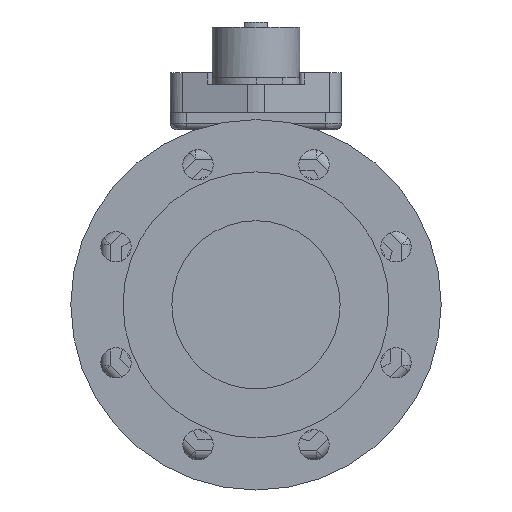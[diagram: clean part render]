
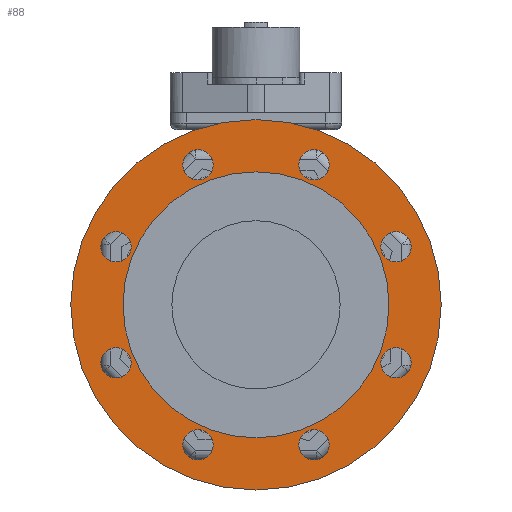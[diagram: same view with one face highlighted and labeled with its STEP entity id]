
A CAD part, left-side view. The second image highlights one B-rep face of the part: STEP entity #88.
In plain terms, the highlighted planar face has unit normal (-1, 0, 0).
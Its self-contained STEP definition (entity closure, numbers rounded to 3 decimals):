
#88=ADVANCED_FACE('',(#514,#515,#516,#517,#518,#519,#520,#521,#522,#523),#513,.T.);
#513=PLANE('',#3407);
#514=FACE_OUTER_BOUND('',#3408,.T.);
#515=FACE_BOUND('',#3409,.T.);
#516=FACE_BOUND('',#3410,.T.);
#517=FACE_BOUND('',#3411,.T.);
#518=FACE_BOUND('',#3412,.T.);
#519=FACE_BOUND('',#3413,.T.);
#520=FACE_BOUND('',#3414,.T.);
#521=FACE_BOUND('',#3415,.T.);
#522=FACE_BOUND('',#3416,.T.);
#523=FACE_BOUND('',#3417,.T.);
#3404=CARTESIAN_POINT('',(-167.7,-200.526,-230.));
#3405=DIRECTION('',(-1.,0.,0.));
#3406=DIRECTION('',(0.,0.,1.));
#3407=AXIS2_PLACEMENT_3D('',#3404,#3405,#3406);
#3408=EDGE_LOOP('',(#5120,#5121));
#3409=EDGE_LOOP('',(#5122,#5123));
#3410=EDGE_LOOP('',(#5124,#5125));
#3411=EDGE_LOOP('',(#5126,#5127));
#3412=EDGE_LOOP('',(#5128,#5129));
#3413=EDGE_LOOP('',(#5130,#5131));
#3414=EDGE_LOOP('',(#5132,#5133));
#3415=EDGE_LOOP('',(#5134,#5135));
#3416=EDGE_LOOP('',(#5136,#5137));
#3417=EDGE_LOOP('',(#5138,#5139));
#5120=ORIENTED_EDGE('',*,*,#6575,.T.);
#5121=ORIENTED_EDGE('',*,*,#6576,.T.);
#5122=ORIENTED_EDGE('',*,*,#6577,.F.);
#5123=ORIENTED_EDGE('',*,*,#6578,.F.);
#5124=ORIENTED_EDGE('',*,*,#6579,.F.);
#5125=ORIENTED_EDGE('',*,*,#6580,.F.);
#5126=ORIENTED_EDGE('',*,*,#6581,.F.);
#5127=ORIENTED_EDGE('',*,*,#6582,.F.);
#5128=ORIENTED_EDGE('',*,*,#6583,.F.);
#5129=ORIENTED_EDGE('',*,*,#6584,.F.);
#5130=ORIENTED_EDGE('',*,*,#6585,.F.);
#5131=ORIENTED_EDGE('',*,*,#6586,.F.);
#5132=ORIENTED_EDGE('',*,*,#6587,.F.);
#5133=ORIENTED_EDGE('',*,*,#6588,.F.);
#5134=ORIENTED_EDGE('',*,*,#6589,.F.);
#5135=ORIENTED_EDGE('',*,*,#6590,.F.);
#5136=ORIENTED_EDGE('',*,*,#6591,.F.);
#5137=ORIENTED_EDGE('',*,*,#6592,.F.);
#5138=ORIENTED_EDGE('',*,*,#6593,.F.);
#5139=ORIENTED_EDGE('',*,*,#6594,.F.);
#6575=EDGE_CURVE('',#8117,#8118,#8119,.T.);
#6576=EDGE_CURVE('',#8118,#8117,#8125,.T.);
#6577=EDGE_CURVE('',#8131,#8132,#8133,.T.);
#6578=EDGE_CURVE('',#8132,#8131,#8139,.T.);
#6579=EDGE_CURVE('',#8145,#8146,#8147,.T.);
#6580=EDGE_CURVE('',#8146,#8145,#8153,.T.);
#6581=EDGE_CURVE('',#8159,#8160,#8161,.T.);
#6582=EDGE_CURVE('',#8160,#8159,#8167,.T.);
#6583=EDGE_CURVE('',#8173,#8174,#8175,.T.);
#6584=EDGE_CURVE('',#8174,#8173,#8181,.T.);
#6585=EDGE_CURVE('',#8187,#8188,#8189,.T.);
#6586=EDGE_CURVE('',#8188,#8187,#8195,.T.);
#6587=EDGE_CURVE('',#8201,#8202,#8203,.T.);
#6588=EDGE_CURVE('',#8202,#8201,#8209,.T.);
#6589=EDGE_CURVE('',#8215,#8216,#8217,.T.);
#6590=EDGE_CURVE('',#8216,#8215,#8223,.T.);
#6591=EDGE_CURVE('',#8229,#8230,#8231,.T.);
#6592=EDGE_CURVE('',#8230,#8229,#8237,.T.);
#6593=EDGE_CURVE('',#8243,#8244,#8245,.T.);
#6594=EDGE_CURVE('',#8244,#8243,#8251,.T.);
#8117=VERTEX_POINT('',#12651);
#8118=VERTEX_POINT('',#12652);
#8119=CIRCLE('',#12656,110.);
#8125=CIRCLE('',#12660,110.);
#8131=VERTEX_POINT('',#12661);
#8132=VERTEX_POINT('',#12662);
#8133=CIRCLE('',#12666,9.);
#8139=CIRCLE('',#12670,9.);
#8145=VERTEX_POINT('',#12671);
#8146=VERTEX_POINT('',#12672);
#8147=CIRCLE('',#12676,9.);
#8153=CIRCLE('',#12680,9.);
#8159=VERTEX_POINT('',#12681);
#8160=VERTEX_POINT('',#12682);
#8161=CIRCLE('',#12686,9.);
#8167=CIRCLE('',#12690,9.);
#8173=VERTEX_POINT('',#12691);
#8174=VERTEX_POINT('',#12692);
#8175=CIRCLE('',#12696,9.);
#8181=CIRCLE('',#12700,9.);
#8187=VERTEX_POINT('',#12701);
#8188=VERTEX_POINT('',#12702);
#8189=CIRCLE('',#12706,9.);
#8195=CIRCLE('',#12710,9.);
#8201=VERTEX_POINT('',#12711);
#8202=VERTEX_POINT('',#12712);
#8203=CIRCLE('',#12716,9.);
#8209=CIRCLE('',#12720,9.);
#8215=VERTEX_POINT('',#12721);
#8216=VERTEX_POINT('',#12722);
#8217=CIRCLE('',#12726,9.);
#8223=CIRCLE('',#12730,9.);
#8229=VERTEX_POINT('',#12731);
#8230=VERTEX_POINT('',#12732);
#8231=CIRCLE('',#12736,9.);
#8237=CIRCLE('',#12740,9.);
#8243=VERTEX_POINT('',#12741);
#8244=VERTEX_POINT('',#12742);
#8245=CIRCLE('',#12746,79.);
#8251=CIRCLE('',#12750,79.);
#12651=CARTESIAN_POINT('',(-167.7,0.,110.));
#12652=CARTESIAN_POINT('',(-167.7,0.,-110.));
#12653=CARTESIAN_POINT('',(-167.7,0.,0.));
#12654=DIRECTION('',(-1.,0.,0.));
#12655=DIRECTION('',(0.,0.,1.));
#12656=AXIS2_PLACEMENT_3D('',#12653,#12654,#12655);
#12657=CARTESIAN_POINT('',(-167.7,0.,0.));
#12658=DIRECTION('',(-1.,0.,0.));
#12659=DIRECTION('',(0.,0.,1.));
#12660=AXIS2_PLACEMENT_3D('',#12657,#12658,#12659);
#12661=CARTESIAN_POINT('',(-167.7,83.149,25.442));
#12662=CARTESIAN_POINT('',(-167.7,83.149,43.442));
#12663=CARTESIAN_POINT('',(-167.7,83.149,34.442));
#12664=DIRECTION('',(-1.,0.,0.));
#12665=DIRECTION('',(0.,0.,1.));
#12666=AXIS2_PLACEMENT_3D('',#12663,#12664,#12665);
#12667=CARTESIAN_POINT('',(-167.7,83.149,34.442));
#12668=DIRECTION('',(-1.,0.,0.));
#12669=DIRECTION('',(0.,0.,1.));
#12670=AXIS2_PLACEMENT_3D('',#12667,#12668,#12669);
#12671=CARTESIAN_POINT('',(-167.7,83.149,-43.442));
#12672=CARTESIAN_POINT('',(-167.7,83.149,-25.442));
#12673=CARTESIAN_POINT('',(-167.7,83.149,-34.442));
#12674=DIRECTION('',(-1.,0.,0.));
#12675=DIRECTION('',(0.,0.,1.));
#12676=AXIS2_PLACEMENT_3D('',#12673,#12674,#12675);
#12677=CARTESIAN_POINT('',(-167.7,83.149,-34.442));
#12678=DIRECTION('',(-1.,0.,0.));
#12679=DIRECTION('',(0.,0.,1.));
#12680=AXIS2_PLACEMENT_3D('',#12677,#12678,#12679);
#12681=CARTESIAN_POINT('',(-167.7,34.442,-92.149));
#12682=CARTESIAN_POINT('',(-167.7,34.442,-74.149));
#12683=CARTESIAN_POINT('',(-167.7,34.442,-83.149));
#12684=DIRECTION('',(-1.,0.,0.));
#12685=DIRECTION('',(0.,0.,1.));
#12686=AXIS2_PLACEMENT_3D('',#12683,#12684,#12685);
#12687=CARTESIAN_POINT('',(-167.7,34.442,-83.149));
#12688=DIRECTION('',(-1.,0.,0.));
#12689=DIRECTION('',(0.,0.,1.));
#12690=AXIS2_PLACEMENT_3D('',#12687,#12688,#12689);
#12691=CARTESIAN_POINT('',(-167.7,-34.442,-92.149));
#12692=CARTESIAN_POINT('',(-167.7,-34.442,-74.149));
#12693=CARTESIAN_POINT('',(-167.7,-34.442,-83.149));
#12694=DIRECTION('',(-1.,0.,0.));
#12695=DIRECTION('',(0.,0.,1.));
#12696=AXIS2_PLACEMENT_3D('',#12693,#12694,#12695);
#12697=CARTESIAN_POINT('',(-167.7,-34.442,-83.149));
#12698=DIRECTION('',(-1.,0.,0.));
#12699=DIRECTION('',(0.,0.,1.));
#12700=AXIS2_PLACEMENT_3D('',#12697,#12698,#12699);
#12701=CARTESIAN_POINT('',(-167.7,-83.149,-43.442));
#12702=CARTESIAN_POINT('',(-167.7,-83.149,-25.442));
#12703=CARTESIAN_POINT('',(-167.7,-83.149,-34.442));
#12704=DIRECTION('',(-1.,0.,0.));
#12705=DIRECTION('',(0.,0.,1.));
#12706=AXIS2_PLACEMENT_3D('',#12703,#12704,#12705);
#12707=CARTESIAN_POINT('',(-167.7,-83.149,-34.442));
#12708=DIRECTION('',(-1.,0.,0.));
#12709=DIRECTION('',(0.,0.,1.));
#12710=AXIS2_PLACEMENT_3D('',#12707,#12708,#12709);
#12711=CARTESIAN_POINT('',(-167.7,-83.149,25.442));
#12712=CARTESIAN_POINT('',(-167.7,-83.149,43.442));
#12713=CARTESIAN_POINT('',(-167.7,-83.149,34.442));
#12714=DIRECTION('',(-1.,0.,0.));
#12715=DIRECTION('',(0.,0.,1.));
#12716=AXIS2_PLACEMENT_3D('',#12713,#12714,#12715);
#12717=CARTESIAN_POINT('',(-167.7,-83.149,34.442));
#12718=DIRECTION('',(-1.,0.,0.));
#12719=DIRECTION('',(0.,0.,1.));
#12720=AXIS2_PLACEMENT_3D('',#12717,#12718,#12719);
#12721=CARTESIAN_POINT('',(-167.7,-34.442,74.149));
#12722=CARTESIAN_POINT('',(-167.7,-34.442,92.149));
#12723=CARTESIAN_POINT('',(-167.7,-34.442,83.149));
#12724=DIRECTION('',(-1.,0.,0.));
#12725=DIRECTION('',(0.,0.,1.));
#12726=AXIS2_PLACEMENT_3D('',#12723,#12724,#12725);
#12727=CARTESIAN_POINT('',(-167.7,-34.442,83.149));
#12728=DIRECTION('',(-1.,0.,0.));
#12729=DIRECTION('',(0.,0.,1.));
#12730=AXIS2_PLACEMENT_3D('',#12727,#12728,#12729);
#12731=CARTESIAN_POINT('',(-167.7,34.442,74.149));
#12732=CARTESIAN_POINT('',(-167.7,34.442,92.149));
#12733=CARTESIAN_POINT('',(-167.7,34.442,83.149));
#12734=DIRECTION('',(-1.,0.,0.));
#12735=DIRECTION('',(0.,0.,1.));
#12736=AXIS2_PLACEMENT_3D('',#12733,#12734,#12735);
#12737=CARTESIAN_POINT('',(-167.7,34.442,83.149));
#12738=DIRECTION('',(-1.,0.,0.));
#12739=DIRECTION('',(0.,0.,1.));
#12740=AXIS2_PLACEMENT_3D('',#12737,#12738,#12739);
#12741=CARTESIAN_POINT('',(-167.7,0.,-79.));
#12742=CARTESIAN_POINT('',(-167.7,0.,79.));
#12743=CARTESIAN_POINT('',(-167.7,0.,0.));
#12744=DIRECTION('',(-1.,0.,0.));
#12745=DIRECTION('',(0.,0.,1.));
#12746=AXIS2_PLACEMENT_3D('',#12743,#12744,#12745);
#12747=CARTESIAN_POINT('',(-167.7,0.,0.));
#12748=DIRECTION('',(-1.,0.,0.));
#12749=DIRECTION('',(0.,0.,1.));
#12750=AXIS2_PLACEMENT_3D('',#12747,#12748,#12749);
